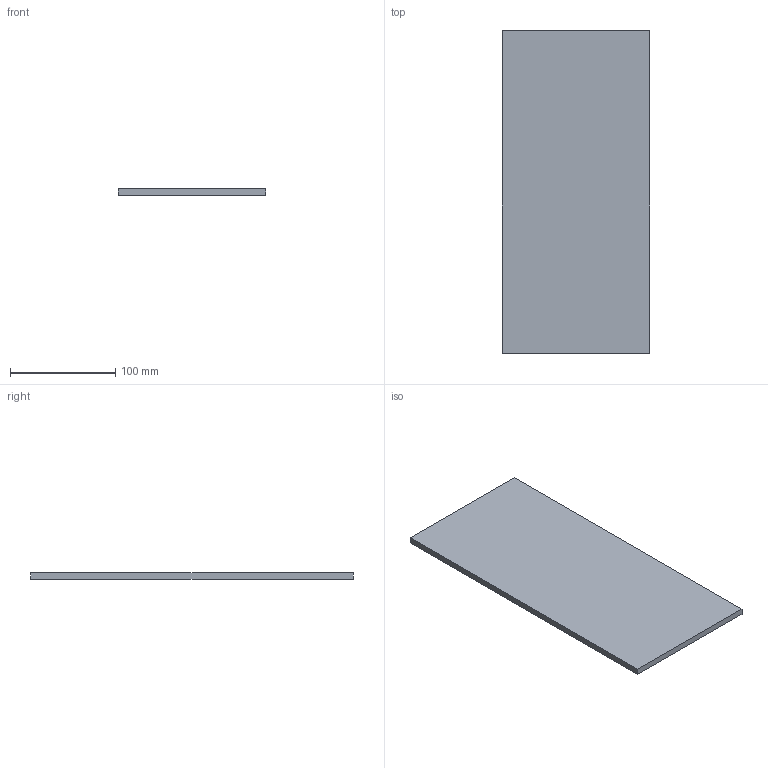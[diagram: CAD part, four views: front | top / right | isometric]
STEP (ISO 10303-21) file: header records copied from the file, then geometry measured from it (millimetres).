
FILE_DESCRIPTION(('Open CASCADE Model'),'2;1');
FILE_NAME('Open CASCADE Shape Model','2026-09-19T23:46:40',('Author'),( 'Open CASCADE'),'Open CASCADE STEP processor 7.9','Open CASCADE 7.9' ,'Unknown');
FILE_SCHEMA(('AUTOMOTIVE_DESIGN { 1 0 10303 214 1 1 1 1 }'));
Length unit declared in the file: millimetre
Products named in the file (1): Open CASCADE STEP translator 7.9 60
Bounding box: 140 x 306 x 6 mm (x, y, z)
Volume: 257040 mm3; surface area: 91032 mm2
Topology: 1 solids, 1 shells, 6 faces, 12 edges, 8 vertices
Faces by surface type: plane 6
Entity records: 322 total; most frequent: CARTESIAN_POINT 51, DIRECTION 50, LINE 36, VECTOR 36, ORIENTED_EDGE 24, PCURVE 24, DEFINITIONAL_REPRESENTATION 24, EDGE_CURVE 12
